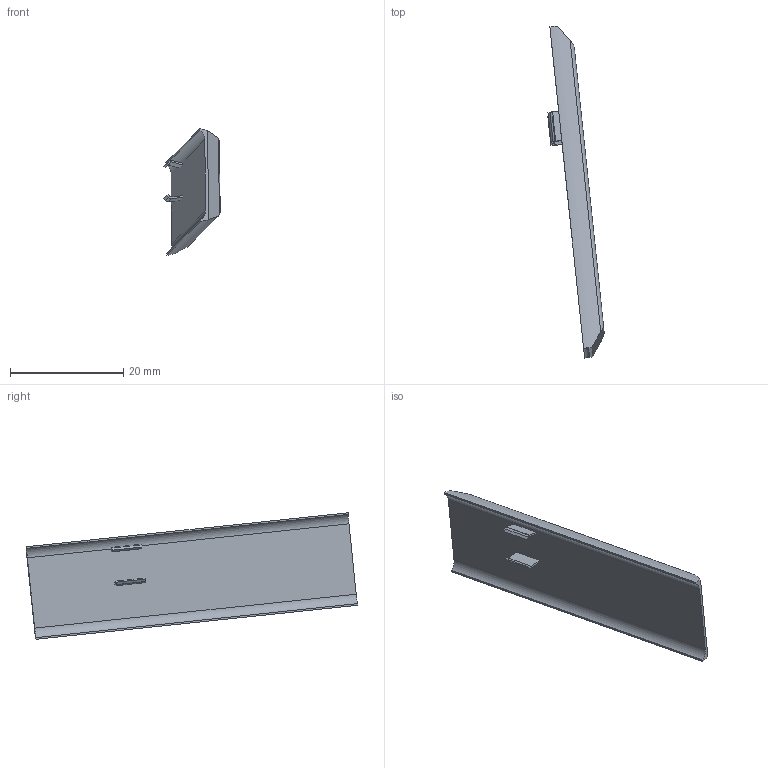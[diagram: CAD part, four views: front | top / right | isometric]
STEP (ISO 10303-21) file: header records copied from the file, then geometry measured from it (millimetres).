
FILE_DESCRIPTION (( 'STEP AP214' ), '1' );
FILE_NAME ('Abdeckkappe lang neutral_136440.STEP', '2010-11-16T08:38:29', ( 'grass' ), ( '' ), 'SwSTEP 2.0', 'SolidWorks 2010', '' );
FILE_SCHEMA (( 'AUTOMOTIVE_DESIGN' ));
Length unit declared in the file: millimetre
Products named in the file (1): Abdeckkappe lang neutral_136440
Bounding box: 9.93 x 58.5 x 22.3 mm (x, y, z)
Volume: 2520.9 mm3; surface area: 2310.1 mm2
Topology: 1 solids, 1 shells, 36 faces, 96 edges, 64 vertices
Faces by surface type: plane 22, cylinder 14
Entity records: 1154 total; most frequent: CARTESIAN_POINT 233, ORIENTED_EDGE 192, DIRECTION 178, EDGE_CURVE 96, LINE 64, VECTOR 64, VERTEX_POINT 64, AXIS2_PLACEMENT_3D 57
